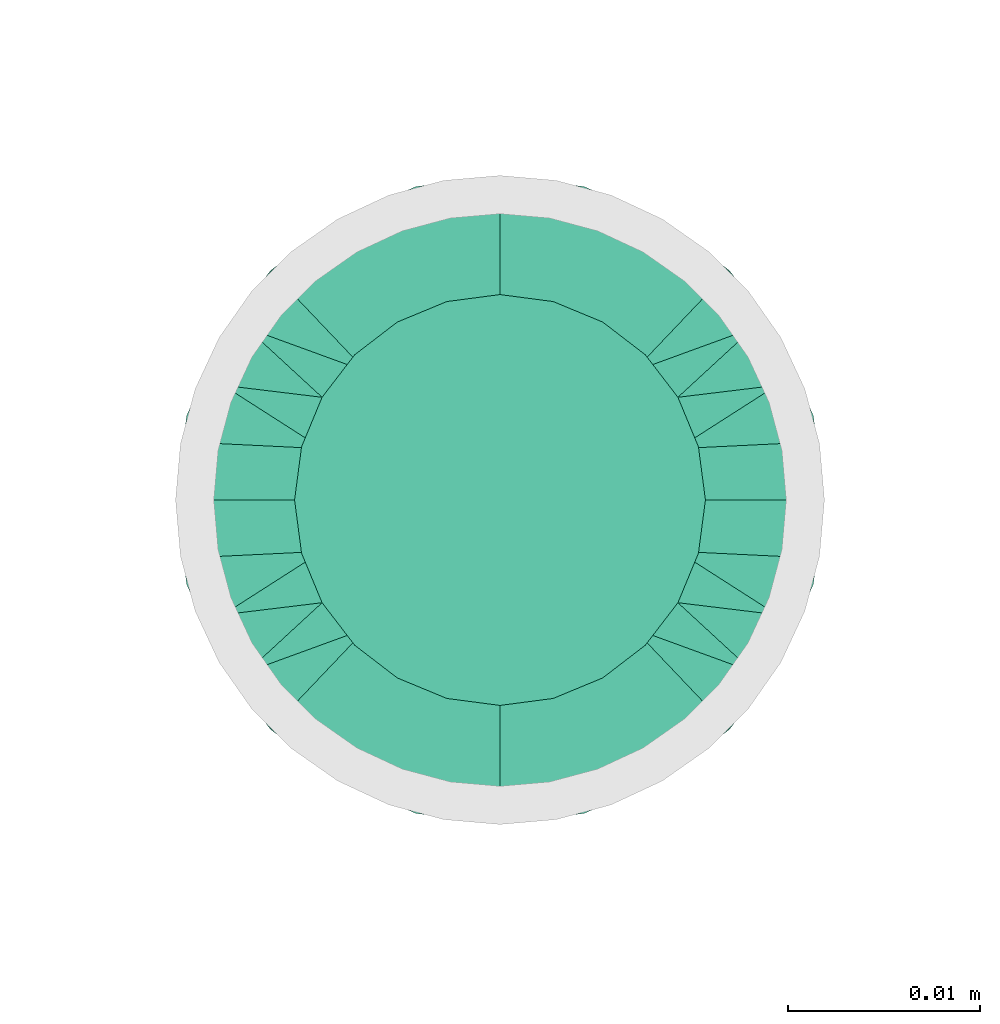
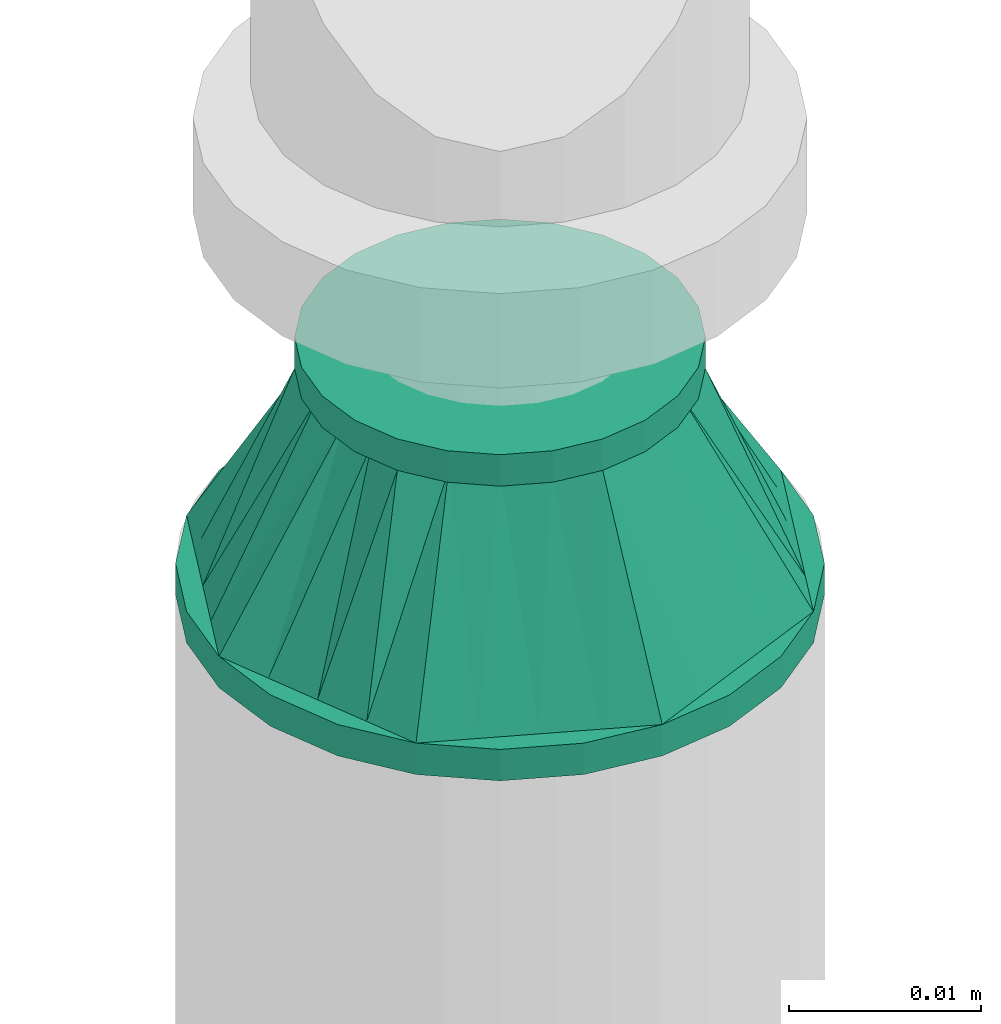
# One storey, part 13 of 44: 1 flow fitting.
"""IFC2X3 building model written with IfcOpenShell, lengths in millimetres."""

from ifc_helpers import new_model, entity, si_unit, converted_unit, derived_unit, direction, frame, origin_with_axes, place, context, subcontext, project, spatial, open_shell, surface_model, source, transform, mapped, type_object, element, save


model = new_model("IFC2X3")

# Units and contexts
model_context = context("Model", 3, precision=0.01, world=frame((0.0, 4.29681676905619e-09, 0.0)), true_north=direction((4.01073788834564e-13, 1.0)))
plan_context = context("Plan", 3, precision=0.01, world=frame((0.0, 4.29681676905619e-09, 0.0)), true_north=direction((4.01073788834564e-13, 1.0)))
body_context = subcontext(model_context, "Body", "Model", "MODEL_VIEW")
ifc_project = project(units=[converted_unit("PLANEANGLEUNIT", "DEGREE", entity("IfcPositiveLengthMeasure", 0.0174532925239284), si_unit("PLANEANGLEUNIT", "RADIAN"), dimensions=[0, 0, 0, 0, 0, 0, 0]), si_unit("AREAUNIT", "SQUARE_METRE"), si_unit("LENGTHUNIT", "METRE", prefix="MILLI"), si_unit("MASSUNIT", "GRAM", prefix="KILO"), si_unit("POWERUNIT", "WATT"), si_unit("PRESSUREUNIT", "PASCAL"), si_unit("FORCEUNIT", "NEWTON", prefix="KILO"), si_unit("ELECTRICVOLTAGEUNIT", "VOLT"), si_unit("ELECTRICCURRENTUNIT", "AMPERE"), si_unit("THERMODYNAMICTEMPERATUREUNIT", "DEGREE_CELSIUS"), si_unit("TIMEUNIT", "SECOND"), si_unit("VOLUMEUNIT", "CUBIC_METRE"), derived_unit("LINEARVELOCITYUNIT", [(si_unit("LENGTHUNIT", "METRE"), 1), (si_unit("TIMEUNIT", "SECOND"), -1)]), derived_unit("VOLUMETRICFLOWRATEUNIT", [(si_unit("VOLUMEUNIT", "CUBIC_METRE"), 1), (si_unit("TIMEUNIT", "SECOND"), -1)]), derived_unit("THERMALTRANSMITTANCEUNIT", [(si_unit("POWERUNIT", "WATT"), 1), (si_unit("THERMODYNAMICTEMPERATUREUNIT", "KELVIN"), -1), (si_unit("AREAUNIT", "SQUARE_METRE"), -1)]), derived_unit("SOUNDPRESSUREUNIT", [(si_unit("PRESSUREUNIT", "PASCAL"), 1)])], contexts=[model_context, plan_context])

# Site, building, storey
site_placement = place(None, frame((0.0, -4.29681676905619e-09, 0.0), z_axis=(0.0, 0.0, 1.0), x_axis=(1.0, 0.0, 0.0)))
site = spatial("IfcSite", under=ifc_project, at=site_placement, CompositionType="ELEMENT")
building_placement = place(site_placement, frame((0.0, 4.29681676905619e-09, 0.0), z_axis=(0.0, 0.0, 1.0), x_axis=(1.0, 0.0, 0.0)))
building = spatial("IfcBuilding", under=site, at=building_placement, Name="mc-building", CompositionType="ELEMENT")
storey_placement = place(building_placement, frame((0.0, 0.0, 207370.0), z_axis=(0.0, 0.0, 1.0), x_axis=(1.0, 0.0, 0.0)))
storey = spatial("IfcBuildingStorey", under=building, at=storey_placement, Name="Nivå E", CompositionType="ELEMENT", Elevation=207370.0)

# Flow fitting
pipe_fitting_type = type_object("IfcPipeFittingType", Name="magi_pipe_fe_reducer_centric_short_NOR", PredefinedType="TRANSITION")
shared_shape = source(origin_with_axes(), body_context, "Body", "SurfaceModel", [
    surface_model("IfcShellBasedSurfaceModel", [(-2.0, -7.56604, -7.56604), (-2.0, -10.33541, -2.76936), (-2.0, -5.35, -9.26647), (-2.0, 5.35, -9.26647), (-2.0, 10.33541, -2.76936), (-2.0, 7.56604, -7.56604), (12.4, 11.9501, 11.9501), (12.4, 0.0, 16.9), (12.4, 11.9501, -11.9501), (12.4, 16.9, 0.0), (0.0, -10.7, 0.0), (0.0, -5.35, 9.26647), (0.0, -5.35, -9.26647), (0.0, 10.7, 0.0), (12.4, 15.66253, -2.98753), (12.4, 8.96258, -13.18758), (0.0, 6.6875, -6.94985), (12.4, -15.66253, -2.98753), (12.4, -16.9, 0.0), (12.4, 5.97505, -14.42505), (0.0, 5.35, -9.26647), (12.4, 14.42505, -5.97505), (0.0, 8.025, -4.63324), (0.0, 9.3625, -2.31662), (0.0, -9.3625, -2.31662), (0.0, -8.025, -4.63324), (12.4, -14.42505, -5.97505), (12.4, 13.18758, -8.96258), (12.4, -13.18758, -8.96258), (12.4, -11.9501, -11.9501), (0.0, -6.6875, -6.94985), (12.4, -8.96258, -13.18758), (12.4, -5.97505, -14.42505), (12.4, -15.66253, 2.98753), (12.4, -8.96258, 13.18758), (0.0, -6.6875, 6.94985), (12.4, -11.9501, 11.9501), (12.4, 15.66253, 2.98753), (12.4, -5.97505, 14.42505), (12.4, -14.42505, 5.97505), (0.0, -8.025, 4.63324), (0.0, -9.3625, 2.31662), (0.0, 9.3625, 2.31662), (0.0, 8.025, 4.63324), (12.4, 14.42505, 5.97505), (12.4, -13.18758, 8.96258), (12.4, 13.18758, 8.96258), (0.0, 6.6875, 6.94985), (12.4, 8.96258, 13.18758), (0.0, 5.35, 9.26647), (12.4, 5.97505, 14.42505), (14.4, 4.37404, -16.32415), (14.4, 8.45, -14.63583), (14.4, 11.9501, -11.9501), (14.4, -8.45, -14.63583), (14.4, 16.32415, -4.37404), (14.4, 16.32415, 4.37404), (14.4, 14.63583, -8.45), (14.4, 0.0, -16.9), (14.4, -4.37404, -16.32415), (14.4, -11.9501, -11.9501), (14.4, -16.32415, -4.37404), (14.4, -14.63583, -8.45), (14.4, -16.32415, 4.37404), (14.4, 16.9, 0.0), (14.4, 14.63583, 8.45), (14.4, 11.9501, 11.9501), (14.4, 4.37404, 16.32415), (14.4, 8.45, 14.63583), (14.4, 0.0, 16.9), (14.4, -14.63583, 8.45), (14.4, -16.9, 0.0), (14.4, -8.45, 14.63583), (14.4, -11.9501, 11.9501), (14.4, -4.37404, 16.32415), (12.4, 4.37404, 16.32415), (12.4, -14.63583, 8.45), (12.4, 16.32415, 4.37404), (12.4, 8.45, 14.63583), (12.4, 14.63583, 8.45), (12.4, -8.45, 14.63583), (12.4, -4.37404, 16.32415), (12.4, -16.32415, 4.37404), (12.4, -16.32415, -4.37404), (12.4, -8.45, -14.63583), (12.4, 16.32415, -4.37404), (12.4, 14.63583, -8.45), (12.4, 8.45, -14.63583), (12.4, 4.37404, -16.32415), (12.4, 0.0, -16.9), (12.4, -14.63583, -8.45), (12.4, -4.37404, -16.32415), (-2.0, 2.76936, 10.33541), (-2.0, 0.0, 10.7), (-2.0, 5.35, 9.26647), (-2.0, 7.56604, 7.56604), (-2.0, 9.26647, 5.35), (-2.0, 10.33541, 2.76936), (-2.0, -10.33541, 2.76936), (-2.0, -2.76936, 10.33541), (-2.0, -7.56604, 7.56604), (-2.0, -5.35, 9.26647), (-2.0, -9.26647, 5.35), (-2.0, -10.7, 0.0), (-2.0, 9.26647, -5.35), (-2.0, 2.76936, -10.33541), (-2.0, -9.26647, -5.35), (-2.0, 0.0, -10.7), (-2.0, -2.76936, -10.33541), (-2.0, 10.7, 0.0), (0.0, 0.0, -10.7), (0.0, 2.76936, -10.33541), (0.0, 10.33541, -2.76936), (0.0, 7.56604, -7.56604), (0.0, -10.33541, -2.76936), (0.0, 9.26647, -5.35), (0.0, 0.0, 10.7), (0.0, -2.76936, -10.33541), (0.0, -7.56604, -7.56604), (0.0, -9.26647, -5.35), (0.0, 10.33541, 2.76936), (0.0, 9.26647, 5.35), (0.0, 7.56604, 7.56604), (0.0, 2.76936, 10.33541), (0.0, -7.56604, 7.56604), (0.0, -10.33541, 2.76936), (0.0, -9.26647, 5.35), (0.0, -2.76936, 10.33541), (0.0, 2.675, -9.26647), (0.0, -2.675, -9.26647), (12.4, 2.98753, -15.66253), (0.0, 0.0, -9.26647), (12.4, -2.98753, -15.66253), (0.0, -2.675, 9.26647), (0.0, 2.675, 9.26647), (12.4, -2.98753, 15.66253), (0.0, 0.0, 9.26647), (12.4, 2.98753, 15.66253)], [open_shell([[[0, 1, 2]], [[3, 4, 5]], [[6, 7, 8]], [[8, 9, 6]], [[10, 11, 12]], [[13, 9, 14]], [[15, 16, 8]], [[17, 18, 10]], [[15, 19, 20]], [[21, 22, 23]], [[24, 25, 26]], [[22, 21, 27]], [[28, 26, 25]], [[29, 30, 31]], [[12, 32, 31]], [[10, 18, 33]], [[34, 35, 36]], [[37, 9, 13]], [[34, 38, 11]], [[39, 40, 41]], [[42, 43, 44]], [[40, 39, 45]], [[46, 44, 43]], [[6, 47, 48]], [[49, 50, 48]], [[51, 52, 53]], [[54, 51, 53]], [[53, 55, 56]], [[55, 53, 57]], [[53, 56, 54]], [[58, 54, 59]], [[58, 51, 54]], [[60, 61, 62]], [[61, 60, 54]], [[54, 63, 61]], [[56, 55, 64]], [[56, 65, 66]], [[56, 66, 67]], [[67, 63, 54]], [[67, 66, 68]], [[63, 67, 69]], [[69, 70, 63]], [[71, 61, 63]], [[70, 72, 73]], [[70, 69, 72]], [[72, 69, 74]], [[54, 56, 67]], [[75, 76, 7]], [[77, 75, 78]], [[6, 79, 77]], [[6, 77, 78]], [[76, 75, 77]], [[80, 76, 36]], [[80, 81, 7]], [[7, 76, 80]], [[82, 76, 77]], [[82, 83, 18]], [[82, 77, 84]], [[77, 85, 8]], [[8, 85, 86]], [[8, 87, 88]], [[84, 77, 8]], [[88, 89, 8]], [[83, 29, 90]], [[29, 83, 84]], [[84, 89, 91]], [[83, 82, 84]], [[8, 89, 84]], [[85, 77, 9]], [[83, 61, 18]], [[90, 62, 83]], [[54, 29, 84]], [[90, 29, 60]], [[59, 84, 91]], [[83, 62, 61]], [[61, 71, 18]], [[59, 54, 84]], [[60, 29, 54]], [[60, 62, 90]], [[58, 59, 91]], [[91, 89, 58]], [[88, 51, 89]], [[87, 52, 88]], [[57, 8, 86]], [[87, 8, 53]], [[55, 86, 85]], [[87, 53, 52]], [[52, 51, 88]], [[64, 55, 85]], [[57, 86, 55]], [[57, 53, 8]], [[9, 64, 85]], [[89, 51, 58]], [[77, 56, 9]], [[79, 65, 77]], [[68, 6, 78]], [[79, 6, 66]], [[67, 78, 75]], [[77, 65, 56]], [[56, 64, 9]], [[67, 68, 78]], [[66, 6, 68]], [[66, 65, 79]], [[69, 67, 75]], [[75, 7, 69]], [[81, 74, 7]], [[80, 72, 81]], [[70, 36, 76]], [[80, 36, 73]], [[63, 76, 82]], [[80, 73, 72]], [[72, 74, 81]], [[71, 63, 82]], [[70, 76, 63]], [[70, 73, 36]], [[18, 71, 82]], [[7, 74, 69]], [[92, 1, 93]], [[94, 1, 92]], [[95, 96, 97]], [[95, 97, 94]], [[98, 93, 1]], [[99, 100, 101]], [[99, 93, 100]], [[100, 98, 102]], [[93, 98, 100]], [[98, 1, 103]], [[94, 97, 1]], [[1, 97, 4]], [[5, 4, 104]], [[4, 3, 1]], [[105, 1, 3]], [[1, 0, 106]], [[2, 107, 108]], [[2, 1, 105]], [[105, 107, 2]], [[4, 97, 109]], [[20, 110, 111]], [[112, 20, 113]], [[114, 20, 112]], [[112, 113, 115]], [[116, 114, 112]], [[110, 12, 117]], [[110, 20, 12]], [[118, 114, 119]], [[114, 118, 12]], [[20, 114, 12]], [[112, 13, 120]], [[120, 121, 122]], [[120, 122, 123]], [[116, 112, 123]], [[123, 122, 49]], [[116, 124, 114]], [[125, 124, 126]], [[10, 114, 125]], [[124, 127, 11]], [[125, 114, 124]], [[127, 124, 116]], [[123, 112, 120]], [[1, 114, 103]], [[106, 119, 1]], [[12, 0, 2]], [[106, 0, 118]], [[117, 2, 108]], [[1, 119, 114]], [[114, 10, 103]], [[117, 12, 2]], [[118, 0, 12]], [[118, 119, 106]], [[110, 117, 108]], [[108, 107, 110]], [[105, 111, 107]], [[3, 20, 105]], [[115, 5, 104]], [[3, 5, 113]], [[112, 104, 4]], [[3, 113, 20]], [[20, 111, 105]], [[13, 112, 4]], [[115, 104, 112]], [[115, 113, 5]], [[109, 13, 4]], [[107, 111, 110]], [[97, 120, 109]], [[96, 121, 97]], [[49, 95, 94]], [[96, 95, 122]], [[123, 94, 92]], [[97, 121, 120]], [[120, 13, 109]], [[123, 49, 94]], [[122, 95, 49]], [[122, 121, 96]], [[116, 123, 92]], [[92, 93, 116]], [[99, 127, 93]], [[101, 11, 99]], [[126, 100, 102]], [[101, 100, 124]], [[125, 102, 98]], [[101, 124, 11]], [[11, 127, 99]], [[10, 125, 98]], [[126, 102, 125]], [[126, 124, 100]], [[103, 10, 98]], [[93, 127, 116]], [[18, 7, 36]], [[18, 29, 8]], [[89, 8, 29]], [[18, 8, 7]], [[13, 11, 49]], [[13, 20, 12]], [[13, 12, 11]], [[24, 26, 17]], [[10, 24, 17]], [[16, 15, 20]], [[30, 12, 31]], [[23, 14, 21]], [[19, 128, 20]], [[27, 8, 16]], [[32, 12, 129]], [[30, 28, 25]], [[130, 131, 128]], [[129, 132, 32]], [[16, 22, 27]], [[13, 14, 23]], [[128, 19, 130]], [[130, 89, 131]], [[131, 132, 129]], [[89, 132, 131]], [[28, 30, 29]], [[42, 44, 37]], [[13, 42, 37]], [[35, 34, 11]], [[47, 49, 48]], [[41, 33, 39]], [[38, 133, 11]], [[45, 36, 35]], [[50, 49, 134]], [[47, 46, 43]], [[135, 136, 133]], [[134, 137, 50]], [[35, 40, 45]], [[10, 33, 41]], [[133, 38, 135]], [[135, 7, 136]], [[136, 137, 134]], [[7, 137, 136]], [[46, 47, 6]]])]),
])
flow_fitting_placement = place(storey_placement, frame((533500.0, 447009.83177, 3040.00555), z_axis=(1.0, 0.0, 0.0), x_axis=(0.0, 0.0, -1.0)))
element("IfcFlowFitting", 1, at=flow_fitting_placement, inside=storey, type_object=pipe_fitting_type, Name="magi_pipe_fe_reducer_centric_short_NOR", context=body_context, shape_type="MappedRepresentation", body=[
    mapped(shared_shape, transform((0.0, 0.0, 0.0), scale=1.0)),
])

save(model, "model.ifc")
